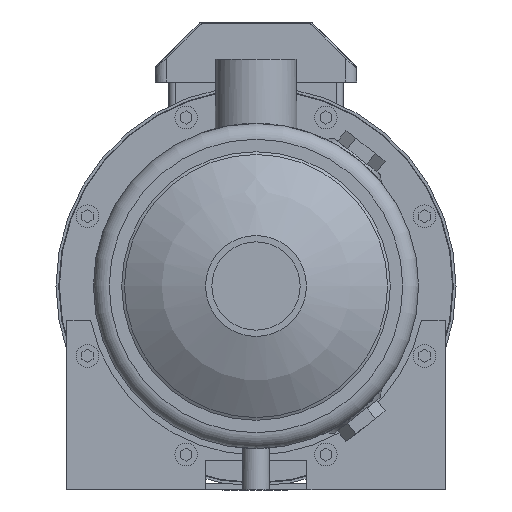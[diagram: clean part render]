
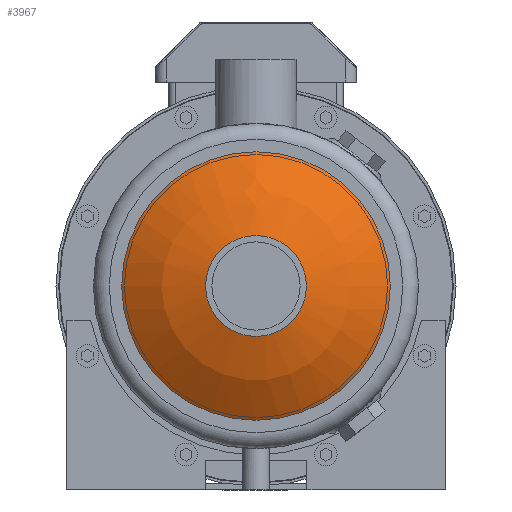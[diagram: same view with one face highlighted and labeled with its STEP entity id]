
A CAD part, left-side view. The second image highlights one B-rep face of the part: STEP entity #3967.
In plain terms, the highlighted spherical face has radius 100 mm.
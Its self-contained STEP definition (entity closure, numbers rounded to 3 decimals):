
#63=SPHERICAL_SURFACE('',#5364,100.);
#917=ORIENTED_EDGE('',*,*,#1982,.T.);
#918=ORIENTED_EDGE('',*,*,#1981,.F.);
#1981=EDGE_CURVE('',#2518,#2518,#2886,.T.);
#1982=EDGE_CURVE('',#2519,#2519,#2887,.T.);
#2518=VERTEX_POINT('',#7164);
#2519=VERTEX_POINT('',#7167);
#2886=CIRCLE('',#5363,22.25);
#2887=CIRCLE('',#5365,59.25);
#3066=EDGE_LOOP('',(#917));
#3067=EDGE_LOOP('',(#918));
#3445=FACE_BOUND('',#3066,.T.);
#3446=FACE_BOUND('',#3067,.T.);
#3967=ADVANCED_FACE('',(#3445,#3446),#63,.T.);
#5363=AXIS2_PLACEMENT_3D('',#7163,#5852,#5853);
#5364=AXIS2_PLACEMENT_3D('',#7165,#5854,#5855);
#5365=AXIS2_PLACEMENT_3D('',#7166,#5856,#5857);
#5852=DIRECTION('',(-1.,0.,0.));
#5853=DIRECTION('',(0.,0.,1.));
#5854=DIRECTION('',(-1.,0.,0.));
#5855=DIRECTION('',(0.,0.,1.));
#5856=DIRECTION('',(-1.,0.,0.));
#5857=DIRECTION('',(0.,0.,1.));
#7163=CARTESIAN_POINT('',(-187.293,0.,0.));
#7164=CARTESIAN_POINT('',(-187.293,0.,22.25));
#7165=CARTESIAN_POINT('',(-89.8,0.,0.));
#7166=CARTESIAN_POINT('',(-170.357,0.,0.));
#7167=CARTESIAN_POINT('',(-170.357,0.,59.25));
